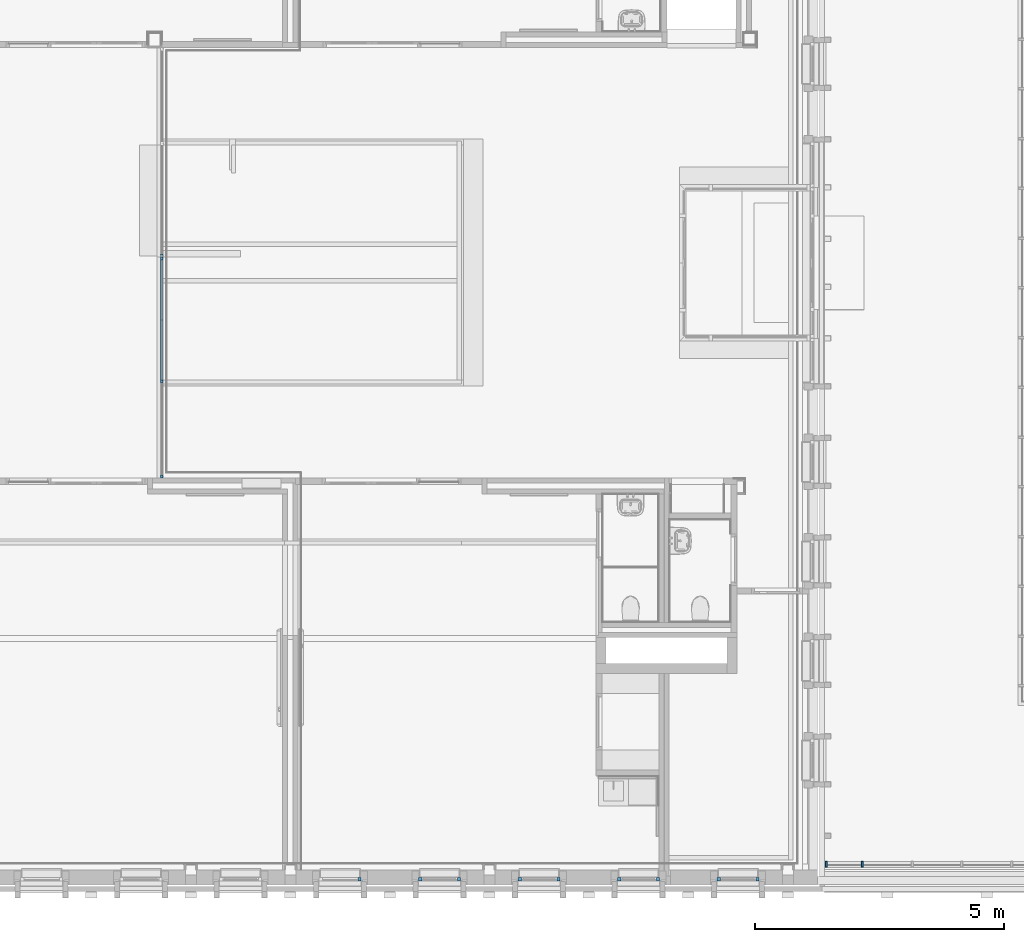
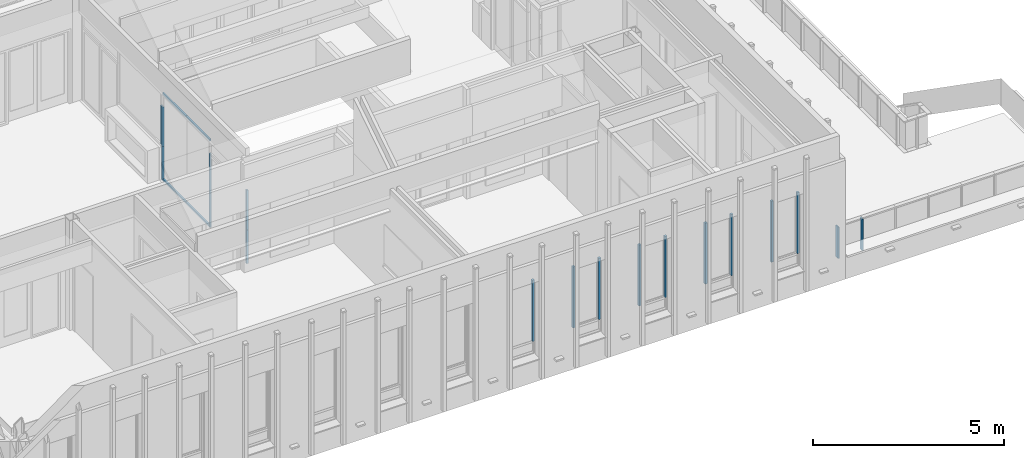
# One storey, part 2 of 118: 22 members, 7 elements without a shape of their own.
"""IFC2X3 building model written with IfcOpenShell, lengths in millimetres."""

from ifc_helpers import new_model, entity, si_unit, converted_unit, derived_unit, direction, frame, origin, origin_2d_with_axis, place, context, subcontext, project, spatial, rectangle, extrude, source, transform, mapped, material, material_list, type_object, type_shapes, element, aggregate, save


model = new_model("IFC2X3")

# Units and contexts
model_context = context("Model", 3, precision=0.01, world=origin(), true_north=direction((6.123031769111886e-17, 1.0)))
plan_context = context("Plan", 3, precision=0.01, world=origin(), true_north=direction((6.123031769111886e-17, 1.0)))
body_context = subcontext(model_context, "Body", "Model", "MODEL_VIEW")
ifc_project = project(units=[si_unit("LENGTHUNIT", "METRE", prefix="MILLI"), si_unit("AREAUNIT", "SQUARE_METRE"), si_unit("VOLUMEUNIT", "CUBIC_METRE"), converted_unit("PLANEANGLEUNIT", "DEGREE", entity("IfcRatioMeasure", 0.017453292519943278), si_unit("PLANEANGLEUNIT", "RADIAN"), dimensions=[0, 0, 0, 0, 0, 0, 0]), si_unit("MASSUNIT", "GRAM", prefix="KILO"), derived_unit("MASSDENSITYUNIT", [(si_unit("MASSUNIT", "GRAM", prefix="KILO"), 1), (si_unit("LENGTHUNIT", "METRE"), -3)]), derived_unit("IONCONCENTRATIONUNIT", [(si_unit("MASSUNIT", "GRAM", prefix="KILO"), 1), (si_unit("LENGTHUNIT", "METRE"), -3)]), derived_unit("MOMENTOFINERTIAUNIT", [(si_unit("LENGTHUNIT", "METRE"), 4)]), si_unit("TIMEUNIT", "SECOND"), si_unit("FREQUENCYUNIT", "HERTZ"), si_unit("THERMODYNAMICTEMPERATUREUNIT", "DEGREE_CELSIUS"), derived_unit("THERMALTRANSMITTANCEUNIT", [(si_unit("MASSUNIT", "GRAM", prefix="KILO"), 1), (si_unit("THERMODYNAMICTEMPERATUREUNIT", "KELVIN"), -1), (si_unit("TIMEUNIT", "SECOND"), -3)]), derived_unit("THERMALCONDUCTANCEUNIT", [(si_unit("MASSUNIT", "GRAM", prefix="KILO"), 1), (si_unit("THERMODYNAMICTEMPERATUREUNIT", "KELVIN"), -1), (si_unit("TIMEUNIT", "SECOND"), -3), (si_unit("LENGTHUNIT", "METRE"), 1)]), derived_unit("VOLUMETRICFLOWRATEUNIT", [(si_unit("LENGTHUNIT", "METRE"), 3), (si_unit("TIMEUNIT", "SECOND"), -1)]), derived_unit("MASSFLOWRATEUNIT", [(si_unit("MASSUNIT", "GRAM", prefix="KILO"), 1), (si_unit("TIMEUNIT", "SECOND"), -1)]), derived_unit("ROTATIONALFREQUENCYUNIT", [(si_unit("TIMEUNIT", "SECOND"), -1)]), si_unit("ELECTRICCURRENTUNIT", "AMPERE"), si_unit("ELECTRICVOLTAGEUNIT", "VOLT"), si_unit("POWERUNIT", "WATT"), si_unit("FORCEUNIT", "NEWTON", prefix="KILO"), si_unit("ILLUMINANCEUNIT", "LUX"), si_unit("LUMINOUSFLUXUNIT", "LUMEN"), si_unit("LUMINOUSINTENSITYUNIT", "CANDELA"), derived_unit("USERDEFINED", [(si_unit("MASSUNIT", "GRAM", prefix="KILO"), -1), (si_unit("LENGTHUNIT", "METRE"), -2), (si_unit("TIMEUNIT", "SECOND"), 3), (si_unit("LUMINOUSFLUXUNIT", "LUMEN"), 1)]), derived_unit("USERDEFINED", [(si_unit("MASSUNIT", "GRAM", prefix="KILO"), 1), (si_unit("TIMEUNIT", "SECOND"), -3), (si_unit("LENGTHUNIT", "METRE"), 3), (si_unit("ELECTRICCURRENTUNIT", "AMPERE"), -2)]), derived_unit("SOUNDPOWERUNIT", [(si_unit("MASSUNIT", "GRAM", prefix="KILO"), 1), (si_unit("TIMEUNIT", "SECOND"), -3), (si_unit("LENGTHUNIT", "METRE"), 2)]), derived_unit("SOUNDPRESSUREUNIT", [(si_unit("MASSUNIT", "GRAM", prefix="KILO"), 1), (si_unit("LENGTHUNIT", "METRE"), -1), (si_unit("TIMEUNIT", "SECOND"), -2)]), derived_unit("LINEARVELOCITYUNIT", [(si_unit("LENGTHUNIT", "METRE"), 1), (si_unit("TIMEUNIT", "SECOND"), -1)]), si_unit("PRESSUREUNIT", "PASCAL"), derived_unit("USERDEFINED", [(si_unit("MASSUNIT", "GRAM", prefix="KILO"), 1), (si_unit("LENGTHUNIT", "METRE"), -2), (si_unit("TIMEUNIT", "SECOND"), -2)]), derived_unit("LINEARFORCEUNIT", [(si_unit("MASSUNIT", "GRAM", prefix="KILO"), 1), (si_unit("TIMEUNIT", "SECOND"), -2)]), derived_unit("PLANARFORCEUNIT", [(si_unit("MASSUNIT", "GRAM", prefix="KILO"), 1), (si_unit("LENGTHUNIT", "METRE"), -1), (si_unit("TIMEUNIT", "SECOND"), -2)]), derived_unit("SPECIFICHEATCAPACITYUNIT", [(si_unit("THERMODYNAMICTEMPERATUREUNIT", "KELVIN"), -1), (si_unit("LENGTHUNIT", "METRE"), 2), (si_unit("TIMEUNIT", "SECOND"), -2)]), derived_unit("HEATINGVALUEUNIT", [(si_unit("LENGTHUNIT", "METRE"), 2), (si_unit("TIMEUNIT", "SECOND"), -2)]), derived_unit("VAPORPERMEABILITYUNIT", [(si_unit("LENGTHUNIT", "METRE"), -1), (si_unit("TIMEUNIT", "SECOND"), 1)]), derived_unit("DYNAMICVISCOSITYUNIT", [(si_unit("MASSUNIT", "GRAM", prefix="KILO"), 1), (si_unit("TIMEUNIT", "SECOND"), -1), (si_unit("LENGTHUNIT", "METRE"), -1)]), derived_unit("THERMALEXPANSIONCOEFFICIENTUNIT", [(si_unit("THERMODYNAMICTEMPERATUREUNIT", "KELVIN"), -1)]), derived_unit("MODULUSOFELASTICITYUNIT", [(si_unit("MASSUNIT", "GRAM", prefix="KILO"), 1), (si_unit("LENGTHUNIT", "METRE"), -1), (si_unit("TIMEUNIT", "SECOND"), -2)]), derived_unit("ISOTHERMALMOISTURECAPACITYUNIT", [(si_unit("LENGTHUNIT", "METRE"), 3), (si_unit("MASSUNIT", "GRAM", prefix="KILO"), -1)]), derived_unit("MOISTUREDIFFUSIVITYUNIT", [(si_unit("TIMEUNIT", "SECOND"), -1), (si_unit("LENGTHUNIT", "METRE"), 2)])], contexts=[model_context, plan_context])

# Site, building, storey
site_placement = place(None, origin())
site = spatial("IfcSite", under=ifc_project, at=site_placement, Name="Locatie", CompositionType="ELEMENT")
building_placement = place(site_placement, origin())
building = spatial("IfcBuilding", under=site, at=building_placement, Name="Bouwwerk", CompositionType="ELEMENT")
storey_placement = place(building_placement, frame((0.0, 0.0, 7800.0)))
storey = spatial("IfcBuildingStorey", under=building, at=storey_placement, Name="02 tweede verdieping", CompositionType="ELEMENT", Elevation=7800.000000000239)

# Curtain wall, member
curtain_wall_type_1 = type_object("IfcCurtainWallType", Name="Curtain Wall:NLRS_21_CW_Ontwerpkozijn_aluminium_RT72", PredefinedType="NOTDEFINED")
curtain_wall_1_placement = place(storey_placement, frame((0.0, 0.0, -7800.0)))
curtain_wall_1 = element("IfcCurtainWall", 1, at=curtain_wall_1_placement, inside=storey, type_object=curtain_wall_type_1, Name="Curtain Wall:NLRS_21_CW_Ontwerpkozijn_aluminium_RT72", ObjectType="Curtain Wall:NLRS_21_CW_Ontwerpkozijn_aluminium_RT72")
ifc_material_1 = material(Name="a_kozijn")
ifc_material_2 = material(Name="<Unnamed>")
ifc_material_list = material_list([ifc_material_2, ifc_material_1])
member_type_1 = type_object("IfcMemberType", Name="Rectangular Mullion:RT72_Hr_raam", PredefinedType="MULLION", material=ifc_material_list)
shared_shape_1 = source(origin(), body_context, "Body", "SweptSolid", [
    extrude(rectangle(XDim=71.99999999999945, YDim=68.00000000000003, at=origin_2d_with_axis()), frame((-34.0, -36.0, -1953.0), z_axis=(0.0, 0.0, 1.0), x_axis=(0.0, -1.0, 0.0)), (0.0, 0.0, 1.0), 1952.9999999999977),
])
type_shapes(member_type_1, [shared_shape_1])
member_1_placement = place(curtain_wall_1_placement, frame((25725.0, 9847.0, 10795.0)))
member_1 = element("IfcMember", 2, at=member_1_placement, type_object=member_type_1, material=ifc_material_1, Name="Rectangular Mullion:RT72_Hr_raam", ObjectType="Rectangular Mullion:RT72_Hr_raam", context=body_context, shape_type="MappedRepresentation", body=[
    mapped(shared_shape_1, transform((0.0, 0.0, 0.0), scale=1.0)),
])
aggregate(curtain_wall_1, [member_1])

curtain_wall_2_placement = place(storey_placement, frame((0.0, 0.0, -7800.0)))
curtain_wall_2 = element("IfcCurtainWall", 3, at=curtain_wall_2_placement, inside=storey, type_object=curtain_wall_type_1, Name="Curtain Wall:NLRS_21_CW_Ontwerpkozijn_aluminium_RT72", ObjectType="Curtain Wall:NLRS_21_CW_Ontwerpkozijn_aluminium_RT72")
member_2_placement = place(curtain_wall_2_placement, frame((27725.0, 9847.0, 10795.0)))
member_2 = element("IfcMember", 4, at=member_2_placement, type_object=member_type_1, material=ifc_material_1, Name="Rectangular Mullion:RT72_Hr_raam", ObjectType="Rectangular Mullion:RT72_Hr_raam", context=body_context, shape_type="MappedRepresentation", body=[
    mapped(shared_shape_1, transform((0.0, 0.0, 0.0), scale=1.0)),
])

curtain_wall_3_placement = place(storey_placement, frame((0.0, 0.0, -7800.0)))
curtain_wall_3 = element("IfcCurtainWall", 5, at=curtain_wall_3_placement, inside=storey, type_object=curtain_wall_type_1, Name="Curtain Wall:NLRS_21_CW_Ontwerpkozijn_aluminium_RT72", ObjectType="Curtain Wall:NLRS_21_CW_Ontwerpkozijn_aluminium_RT72")
member_3_placement = place(curtain_wall_3_placement, frame((29725.0, 9847.0, 10795.0)))
member_3 = element("IfcMember", 6, at=member_3_placement, type_object=member_type_1, material=ifc_material_1, Name="Rectangular Mullion:RT72_Hr_raam", ObjectType="Rectangular Mullion:RT72_Hr_raam", context=body_context, shape_type="MappedRepresentation", body=[
    mapped(shared_shape_1, transform((0.0, 0.0, 0.0), scale=1.0)),
])

curtain_wall_4_placement = place(storey_placement, frame((0.0, 0.0, -7800.0)))
curtain_wall_4 = element("IfcCurtainWall", 7, at=curtain_wall_4_placement, inside=storey, type_object=curtain_wall_type_1, Name="Curtain Wall:NLRS_21_CW_Ontwerpkozijn_aluminium_RT72", ObjectType="Curtain Wall:NLRS_21_CW_Ontwerpkozijn_aluminium_RT72")
member_4_placement = place(curtain_wall_4_placement, frame((33725.0, 9847.0, 10795.0)))
member_4 = element("IfcMember", 8, at=member_4_placement, type_object=member_type_1, material=ifc_material_1, Name="Rectangular Mullion:RT72_Hr_raam", ObjectType="Rectangular Mullion:RT72_Hr_raam", context=body_context, shape_type="MappedRepresentation", body=[
    mapped(shared_shape_1, transform((0.0, 0.0, 0.0), scale=1.0)),
])

curtain_wall_5_placement = place(storey_placement, frame((0.0, 0.0, -7800.0)))
curtain_wall_5 = element("IfcCurtainWall", 9, at=curtain_wall_5_placement, inside=storey, type_object=curtain_wall_type_1, Name="Curtain Wall:NLRS_21_CW_Ontwerpkozijn_aluminium_RT72", ObjectType="Curtain Wall:NLRS_21_CW_Ontwerpkozijn_aluminium_RT72")
member_5_placement = place(curtain_wall_5_placement, frame((31725.0, 9847.0, 10795.0)))
member_5 = element("IfcMember", 10, at=member_5_placement, type_object=member_type_1, material=ifc_material_1, Name="Rectangular Mullion:RT72_Hr_raam", ObjectType="Rectangular Mullion:RT72_Hr_raam", context=body_context, shape_type="MappedRepresentation", body=[
    mapped(shared_shape_1, transform((0.0, 0.0, 0.0), scale=1.0)),
])

# Member
member_type_2 = type_object("IfcMemberType", Name="Rectangular Mullion:RT72_Hl_raam", PredefinedType="MULLION", material=ifc_material_list)
shared_shape_2 = source(origin(), body_context, "Body", "SweptSolid", [
    extrude(rectangle(XDim=71.99999999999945, YDim=68.00000000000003, at=origin_2d_with_axis()), frame((-34.0, -36.0, -1953.0), z_axis=(0.0, 0.0, 1.0), x_axis=(0.0, -1.0, 0.0)), (0.0, 0.0, 1.0), 1952.9999999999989),
])
type_shapes(member_type_2, [shared_shape_2])
member_6_placement = place(curtain_wall_2_placement, frame((26875.0, 9847.0, 8842.0), z_axis=(0.0, 0.0, -1.0), x_axis=(-1.0, 0.0, 0.0)))
member_6 = element("IfcMember", 11, at=member_6_placement, type_object=member_type_2, material=ifc_material_1, Name="Rectangular Mullion:RT72_Hl_raam", ObjectType="Rectangular Mullion:RT72_Hl_raam", context=body_context, shape_type="MappedRepresentation", body=[
    mapped(shared_shape_2, transform((0.0, 0.0, 0.0), scale=1.0)),
])

aggregate(curtain_wall_2, [member_2, member_6])

member_7_placement = place(curtain_wall_3_placement, frame((28875.0, 9847.0, 8842.0), z_axis=(0.0, 0.0, -1.0), x_axis=(-1.0, 0.0, 0.0)))
member_7 = element("IfcMember", 12, at=member_7_placement, type_object=member_type_2, material=ifc_material_1, Name="Rectangular Mullion:RT72_Hl_raam", ObjectType="Rectangular Mullion:RT72_Hl_raam", context=body_context, shape_type="MappedRepresentation", body=[
    mapped(shared_shape_2, transform((0.0, 0.0, 0.0), scale=1.0)),
])

aggregate(curtain_wall_3, [member_3, member_7])

member_8_placement = place(curtain_wall_4_placement, frame((32875.0, 9847.0, 8842.0), z_axis=(0.0, 0.0, -1.0), x_axis=(-1.0, 0.0, 0.0)))
member_8 = element("IfcMember", 13, at=member_8_placement, type_object=member_type_2, material=ifc_material_1, Name="Rectangular Mullion:RT72_Hl_raam", ObjectType="Rectangular Mullion:RT72_Hl_raam", context=body_context, shape_type="MappedRepresentation", body=[
    mapped(shared_shape_2, transform((0.0, 0.0, 0.0), scale=1.0)),
])

aggregate(curtain_wall_4, [member_4, member_8])

member_9_placement = place(curtain_wall_5_placement, frame((30875.0, 9847.0, 8842.0), z_axis=(0.0, 0.0, -1.0), x_axis=(-1.0, 0.0, 0.0)))
member_9 = element("IfcMember", 14, at=member_9_placement, type_object=member_type_2, material=ifc_material_1, Name="Rectangular Mullion:RT72_Hl_raam", ObjectType="Rectangular Mullion:RT72_Hl_raam", context=body_context, shape_type="MappedRepresentation", body=[
    mapped(shared_shape_2, transform((0.0, 0.0, 0.0), scale=1.0)),
])

aggregate(curtain_wall_5, [member_5, member_9])

# Curtain wall, members
curtain_wall_type_2 = type_object("IfcCurtainWallType", Name="Curtain Wall:32_BDG_Jansen Economy 50", PredefinedType="NOTDEFINED")
curtain_wall_6_placement = place(storey_placement, frame((0.0, 0.0, -7800.0)))
curtain_wall_6 = element("IfcCurtainWall", 15, at=curtain_wall_6_placement, inside=storey, type_object=curtain_wall_type_2, Name="Curtain Wall:32_BDG_Jansen Economy 50", ObjectType="Curtain Wall:32_BDG_Jansen Economy 50")
ifc_material_3 = material(Name="h2_staal_gen")
member_type_3 = type_object("IfcMemberType", Name="Rectangular Mullion:CWM_Jansen Economy 50 bxh=50x60mm", PredefinedType="MULLION", material=ifc_material_3)
shared_shape_3 = source(origin(), body_context, "Body", "SweptSolid", [
    extrude(rectangle(XDim=50.0, YDim=60.0, at=origin_2d_with_axis()), frame((-30.0, 0.0, -1080.0), z_axis=(0.0, 0.0, 1.0), x_axis=(0.0, -1.0, 0.0)), (0.0, 0.0, 1.0), 1079.9999999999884),
])
type_shapes(member_type_3, [shared_shape_3])
member_10_placement = place(curtain_wall_6_placement, frame((21717.0, 17875.0, 7800.0), z_axis=(0.0, 0.0, -1.0), x_axis=(0.0, -1.0, 0.0)))
member_10 = element("IfcMember", 16, at=member_10_placement, type_object=member_type_3, material=ifc_material_3, Name="Rectangular Mullion:CWM_Jansen Economy 50 bxh=50x60mm", ObjectType="Rectangular Mullion:CWM_Jansen Economy 50 bxh=50x60mm", context=body_context, shape_type="MappedRepresentation", body=[
    mapped(shared_shape_3, transform((0.0, 0.0, 0.0), scale=1.0)),
])
member_type_4 = type_object("IfcMemberType", Name="Rectangular Mullion:CWM_Jansen Economy 50 bxh=50x60mm", PredefinedType="MULLION", material=ifc_material_3)
shared_shape_4 = source(origin(), body_context, "Body", "SweptSolid", [
    extrude(rectangle(XDim=49.99999999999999, YDim=60.0, at=origin_2d_with_axis()), frame((-30.0, 0.0, -1236.2500000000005), z_axis=(0.0, 0.0, 1.0), x_axis=(0.0, -1.0, 0.0)), (0.0, 0.0, 1.0), 1236.2500000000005),
])
type_shapes(member_type_4, [shared_shape_4])
member_11_placement = place(curtain_wall_6_placement, frame((21717.0, 19817.336886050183, 10600.0), z_axis=(0.0, -1.0, 0.0), x_axis=(0.0, 0.0, 1.0)))
member_11 = element("IfcMember", 17, at=member_11_placement, type_object=member_type_4, material=ifc_material_3, Name="Rectangular Mullion:CWM_Jansen Economy 50 bxh=50x60mm", ObjectType="Rectangular Mullion:CWM_Jansen Economy 50 bxh=50x60mm", context=body_context, shape_type="MappedRepresentation", body=[
    mapped(shared_shape_4, transform((0.0, 0.0, 0.0), scale=1.0)),
])
member_type_5 = type_object("IfcMemberType", Name="Rectangular Mullion:CWM_Jansen Economy 50 bxh=50x60mm", PredefinedType="MULLION", material=ifc_material_3)
shared_shape_5 = source(origin(), body_context, "Body", "SweptSolid", [
    extrude(rectangle(XDim=50.0, YDim=60.0, at=origin_2d_with_axis()), frame((0.0, 0.0, -1080.0), z_axis=(0.0, 0.0, 1.0), x_axis=(0.0, -1.0, 0.0)), (0.0, 0.0, 1.0), 1079.9999999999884),
])
type_shapes(member_type_5, [shared_shape_5])
member_12_placement = place(curtain_wall_6_placement, frame((21717.0, 19817.336886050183, 7800.0), z_axis=(0.0, 0.0, -1.0), x_axis=(0.0, -1.0, 0.0)))
member_12 = element("IfcMember", 18, at=member_12_placement, type_object=member_type_5, material=ifc_material_3, Name="Rectangular Mullion:CWM_Jansen Economy 50 bxh=50x60mm", ObjectType="Rectangular Mullion:CWM_Jansen Economy 50 bxh=50x60mm", context=body_context, shape_type="MappedRepresentation", body=[
    mapped(shared_shape_5, transform((0.0, 0.0, 0.0), scale=1.0)),
])
member_type_6 = type_object("IfcMemberType", Name="Rectangular Mullion:CWM_Jansen Economy 50 bxh=50x60mm", PredefinedType="MULLION", material=ifc_material_3)
shared_shape_6 = source(origin(), body_context, "Body", "SweptSolid", [
    extrude(rectangle(XDim=50.0, YDim=60.0, at=origin_2d_with_axis()), frame((0.0, 0.0, -1080.0), z_axis=(0.0, 0.0, 1.0), x_axis=(0.0, -1.0, 0.0)), (0.0, 0.0, 1.0), 1079.9999999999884),
])
type_shapes(member_type_6, [shared_shape_6])
member_13_placement = place(curtain_wall_6_placement, frame((21717.0, 22289.836885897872, 7800.0), z_axis=(0.0, 0.0, -1.0), x_axis=(0.0, -1.0, 0.0)))
member_13 = element("IfcMember", 19, at=member_13_placement, type_object=member_type_6, material=ifc_material_3, Name="Rectangular Mullion:CWM_Jansen Economy 50 bxh=50x60mm", ObjectType="Rectangular Mullion:CWM_Jansen Economy 50 bxh=50x60mm", context=body_context, shape_type="MappedRepresentation", body=[
    mapped(shared_shape_6, transform((0.0, 0.0, 0.0), scale=1.0)),
])
member_type_7 = type_object("IfcMemberType", Name="Rectangular Mullion:CWM_Jansen Economy 50 bxh=50x60mm", PredefinedType="MULLION", material=ifc_material_3)
shared_shape_7 = source(origin(), body_context, "Body", "SweptSolid", [
    extrude(rectangle(XDim=50.0, YDim=60.0, at=origin_2d_with_axis()), frame((-30.0, 0.0, -1206.249999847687), z_axis=(0.0, 0.0, 1.0), x_axis=(0.0, -1.0, 0.0)), (0.0, 0.0, 1.0), 1206.249999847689),
])
type_shapes(member_type_7, [shared_shape_7])
member_14_placement = place(curtain_wall_6_placement, frame((21717.0, 22259.836885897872, 7800.0), z_axis=(0.0, 1.0, 0.0), x_axis=(0.0, 0.0, -1.0)))
member_14 = element("IfcMember", 20, at=member_14_placement, type_object=member_type_7, material=ifc_material_3, Name="Rectangular Mullion:CWM_Jansen Economy 50 bxh=50x60mm", ObjectType="Rectangular Mullion:CWM_Jansen Economy 50 bxh=50x60mm", context=body_context, shape_type="MappedRepresentation", body=[
    mapped(shared_shape_7, transform((0.0, 0.0, 0.0), scale=1.0)),
])
member_type_8 = type_object("IfcMemberType", Name="Rectangular Mullion:CWM_Jansen Economy 50 bxh=50x60mm", PredefinedType="MULLION", material=ifc_material_3)
shared_shape_8 = source(origin(), body_context, "Body", "SweptSolid", [
    extrude(rectangle(XDim=50.0, YDim=60.0, at=origin_2d_with_axis()), frame((-30.0, 0.0, -1272.5000000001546), z_axis=(0.0, 0.0, 1.0), x_axis=(0.0, -1.0, 0.0)), (0.0, 0.0, 1.0), 1272.5000000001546),
])
type_shapes(member_type_8, [shared_shape_8])
member_15_placement = place(curtain_wall_6_placement, frame((21717.0, 17875.0, 8880.0), z_axis=(0.0, 0.0, -1.0), x_axis=(0.0, -1.0, 0.0)))
member_15 = element("IfcMember", 21, at=member_15_placement, type_object=member_type_8, material=ifc_material_3, Name="Rectangular Mullion:CWM_Jansen Economy 50 bxh=50x60mm", ObjectType="Rectangular Mullion:CWM_Jansen Economy 50 bxh=50x60mm", context=body_context, shape_type="MappedRepresentation", body=[
    mapped(shared_shape_8, transform((0.0, 0.0, 0.0), scale=1.0)),
])
member_type_9 = type_object("IfcMemberType", Name="Rectangular Mullion:CWM_Jansen Economy 50 bxh=50x60mm", PredefinedType="MULLION", material=ifc_material_3)
shared_shape_9 = source(origin(), body_context, "Body", "SweptSolid", [
    extrude(rectangle(XDim=50.0, YDim=60.0, at=origin_2d_with_axis()), frame((0.0, 0.0, -1272.5000000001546), z_axis=(0.0, 0.0, 1.0), x_axis=(0.0, -1.0, 0.0)), (0.0, 0.0, 1.0), 1272.5000000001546),
])
type_shapes(member_type_9, [shared_shape_9])
member_16_placement = place(curtain_wall_6_placement, frame((21717.0, 22289.836885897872, 8880.0), z_axis=(0.0, 0.0, -1.0), x_axis=(0.0, -1.0, 0.0)))
member_16 = element("IfcMember", 22, at=member_16_placement, type_object=member_type_9, material=ifc_material_3, Name="Rectangular Mullion:CWM_Jansen Economy 50 bxh=50x60mm", ObjectType="Rectangular Mullion:CWM_Jansen Economy 50 bxh=50x60mm", context=body_context, shape_type="MappedRepresentation", body=[
    mapped(shared_shape_9, transform((0.0, 0.0, 0.0), scale=1.0)),
])
member_type_10 = type_object("IfcMemberType", Name="Rectangular Mullion:CWM_Jansen Economy 50 bxh=50x60mm", PredefinedType="MULLION", material=ifc_material_3)
shared_shape_10 = source(origin(), body_context, "Body", "SweptSolid", [
    extrude(rectangle(XDim=50.0, YDim=60.0, at=origin_2d_with_axis()), frame((0.0, 0.0, -1272.5000000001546), z_axis=(0.0, 0.0, 1.0), x_axis=(0.0, -1.0, 0.0)), (0.0, 0.0, 1.0), 1272.5000000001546),
])
type_shapes(member_type_10, [shared_shape_10])
member_17_placement = place(curtain_wall_6_placement, frame((21717.0, 19817.336886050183, 8880.0), z_axis=(0.0, 0.0, -1.0), x_axis=(0.0, -1.0, 0.0)))
member_17 = element("IfcMember", 23, at=member_17_placement, type_object=member_type_10, material=ifc_material_3, Name="Rectangular Mullion:CWM_Jansen Economy 50 bxh=50x60mm", ObjectType="Rectangular Mullion:CWM_Jansen Economy 50 bxh=50x60mm", context=body_context, shape_type="MappedRepresentation", body=[
    mapped(shared_shape_10, transform((0.0, 0.0, 0.0), scale=1.0)),
])
member_type_11 = type_object("IfcMemberType", Name="Rectangular Mullion:CWM_Jansen Economy 50 bxh=50x60mm", PredefinedType="MULLION", material=ifc_material_3)
shared_shape_11 = source(origin(), body_context, "Body", "SweptSolid", [
    extrude(rectangle(XDim=50.0, YDim=60.0, at=origin_2d_with_axis()), frame((0.0, 0.0, -1242.500000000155), z_axis=(0.0, 0.0, 1.0), x_axis=(0.0, -1.0, 0.0)), (0.0, 0.0, 1.0), 1242.500000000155),
])
type_shapes(member_type_11, [shared_shape_11])
member_18_placement = place(curtain_wall_6_placement, frame((21717.0, 22349.836885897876, 8910.0), z_axis=(0.0, 0.0, -1.0), x_axis=(0.0, -1.0, 0.0)))
member_18 = element("IfcMember", 24, at=member_18_placement, type_object=member_type_11, material=ifc_material_3, Name="Rectangular Mullion:CWM_Jansen Economy 50 bxh=50x60mm", ObjectType="Rectangular Mullion:CWM_Jansen Economy 50 bxh=50x60mm", context=body_context, shape_type="MappedRepresentation", body=[
    mapped(shared_shape_11, transform((0.0, 0.0, 0.0), scale=1.0)),
])
member_type_12 = type_object("IfcMemberType", Name="Rectangular Mullion:CWM_Jansen Economy 50 bxh=50x60mm", PredefinedType="MULLION", material=ifc_material_3)
shared_shape_12 = source(origin(), body_context, "Body", "SweptSolid", [
    extrude(rectangle(XDim=50.0, YDim=60.0, at=origin_2d_with_axis()), frame((-30.0, 0.0, -1236.2499998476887), z_axis=(0.0, 0.0, 1.0), x_axis=(0.0, -1.0, 0.0)), (0.0, 0.0, 1.0), 1236.2499998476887),
])
type_shapes(member_type_12, [shared_shape_12])
member_19_placement = place(curtain_wall_6_placement, frame((21717.0, 21053.586886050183, 10600.0), z_axis=(0.0, -1.0, 0.0), x_axis=(0.0, 0.0, 1.0)))
member_19 = element("IfcMember", 25, at=member_19_placement, type_object=member_type_12, material=ifc_material_3, Name="Rectangular Mullion:CWM_Jansen Economy 50 bxh=50x60mm", ObjectType="Rectangular Mullion:CWM_Jansen Economy 50 bxh=50x60mm", context=body_context, shape_type="MappedRepresentation", body=[
    mapped(shared_shape_12, transform((0.0, 0.0, 0.0), scale=1.0)),
])
member_type_13 = type_object("IfcMemberType", Name="Rectangular Mullion:CWM_Jansen Economy 50 bxh=50x60mm", PredefinedType="MULLION", material=ifc_material_3)
shared_shape_13 = source(origin(), body_context, "Body", "SweptSolid", [
    extrude(rectangle(XDim=49.99999999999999, YDim=60.0, at=origin_2d_with_axis()), frame((-30.0, 0.0, -1206.250000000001), z_axis=(0.0, 0.0, 1.0), x_axis=(0.0, -1.0, 0.0)), (0.0, 0.0, 1.0), 1206.250000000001),
])
type_shapes(member_type_13, [shared_shape_13])
member_20_placement = place(curtain_wall_6_placement, frame((21717.0, 21053.586886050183, 7800.0), z_axis=(0.0, 1.0, 0.0), x_axis=(0.0, 0.0, -1.0)))
member_20 = element("IfcMember", 26, at=member_20_placement, type_object=member_type_13, material=ifc_material_3, Name="Rectangular Mullion:CWM_Jansen Economy 50 bxh=50x60mm", ObjectType="Rectangular Mullion:CWM_Jansen Economy 50 bxh=50x60mm", context=body_context, shape_type="MappedRepresentation", body=[
    mapped(shared_shape_13, transform((0.0, 0.0, 0.0), scale=1.0)),
])
aggregate(curtain_wall_6, [member_10, member_11, member_12, member_13, member_14, member_15, member_16, member_17, member_18, member_19, member_20])

curtain_wall_type_3 = type_object("IfcCurtainWallType", Name="Curtain Wall:railing 120x40", PredefinedType="NOTDEFINED")
curtain_wall_7_placement = place(storey_placement, frame((0.0, 0.0, -7800.0)))
curtain_wall_7 = element("IfcCurtainWall", 27, at=curtain_wall_7_placement, inside=storey, type_object=curtain_wall_type_3, Name="Curtain Wall:railing 120x40", ObjectType="Curtain Wall:railing 120x40")
ifc_material_4 = material(Name="staal")
member_type_14 = type_object("IfcMemberType", Name="Rectangular Mullion:40x120 railing", PredefinedType="MULLION", material=ifc_material_4)
shared_shape_14 = source(origin(), body_context, "Body", "SweptSolid", [
    extrude(rectangle(XDim=120.0, YDim=40.0, at=origin_2d_with_axis()), frame((0.0, 0.0, -1007.0), z_axis=(0.0, 0.0, 1.0), x_axis=(0.0, -1.0, 0.0)), (0.0, 0.0, 1.0), 1007.0000000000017),
])
type_shapes(member_type_14, [shared_shape_14])
member_21_placement = place(curtain_wall_7_placement, frame((35800.0, 10110.0, 8033.0), z_axis=(0.0, 0.0, -1.0), x_axis=(1.0, 0.0, 0.0)))
member_21 = element("IfcMember", 28, at=member_21_placement, type_object=member_type_14, material=ifc_material_4, Name="Rectangular Mullion:40x120 railing", ObjectType="Rectangular Mullion:40x120 railing", context=body_context, shape_type="MappedRepresentation", body=[
    mapped(shared_shape_14, transform((0.0, 0.0, 0.0), scale=1.0)),
])
member_type_15 = type_object("IfcMemberType", Name="Rectangular Mullion:40x120 railing", PredefinedType="MULLION", material=ifc_material_4)
shared_shape_15 = source(origin(), body_context, "Body", "SweptSolid", [
    extrude(rectangle(XDim=120.0, YDim=40.0, at=origin_2d_with_axis()), frame((-20.0, 0.0, -1007.0), z_axis=(0.0, 0.0, 1.0), x_axis=(0.0, -1.0, 0.0)), (0.0, 0.0, 1.0), 1007.0000000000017),
])
type_shapes(member_type_15, [shared_shape_15])
member_22_placement = place(curtain_wall_7_placement, frame((35050.0, 10110.0, 9040.0), z_axis=(0.0, 0.0, 1.0), x_axis=(-1.0, 0.0, 0.0)))
member_22 = element("IfcMember", 29, at=member_22_placement, type_object=member_type_15, material=ifc_material_4, Name="Rectangular Mullion:40x120 railing", ObjectType="Rectangular Mullion:40x120 railing", context=body_context, shape_type="MappedRepresentation", body=[
    mapped(shared_shape_15, transform((0.0, 0.0, 0.0), scale=1.0)),
])
aggregate(curtain_wall_7, [member_22, member_21])

save(model, "model.ifc")
